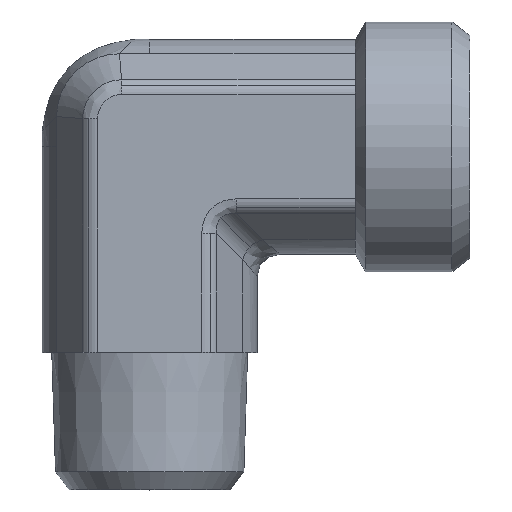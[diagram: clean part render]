
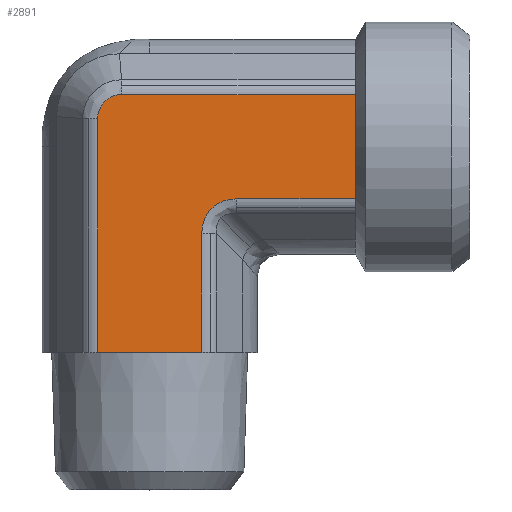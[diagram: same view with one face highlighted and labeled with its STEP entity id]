
A CAD part, top view. The second image highlights one B-rep face of the part: STEP entity #2891.
In plain terms, the highlighted planar face has unit normal (0, 0, 1) as drawn and (0, -1, 0) by its records, which use the part's own axes.
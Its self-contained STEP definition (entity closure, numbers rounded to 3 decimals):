
#361=CARTESIAN_POINT('',(3.092,-9.4,4.561));
#362=VERTEX_POINT('',#361);
#370=CARTESIAN_POINT('',(13.5,-9.4,4.561));
#371=VERTEX_POINT('',#370);
#372=CARTESIAN_POINT('',(3.092,-9.4,4.561));
#373=DIRECTION('',(1.0,0.0,0.0));
#374=VECTOR('',#373,10.408);
#375=LINE('',#372,#374);
#376=EDGE_CURVE('',#362,#371,#375,.T.);
#485=CARTESIAN_POINT('',(-9.061,-9.4,-2.461));
#486=VERTEX_POINT('',#485);
#494=CARTESIAN_POINT('',(-9.061,-9.4,18.0));
#495=VERTEX_POINT('',#494);
#496=CARTESIAN_POINT('',(-9.061,-9.4,-2.461));
#497=DIRECTION('',(0.0,0.0,1.0));
#498=VECTOR('',#497,20.461);
#499=LINE('',#496,#498);
#500=EDGE_CURVE('',#486,#495,#499,.T.);
#1827=CARTESIAN_POINT('',(-4.5,-9.4,18.0));
#1828=VERTEX_POINT('',#1827);
#1963=CARTESIAN_POINT('',(-4.5,-9.4,18.0));
#1964=DIRECTION('',(-1.0,0.0,0.0));
#1965=VECTOR('',#1964,4.561);
#1966=LINE('',#1963,#1965);
#1967=EDGE_CURVE('',#1828,#495,#1966,.T.);
#2040=CARTESIAN_POINT('',(0.061,-9.4,18.0));
#2041=VERTEX_POINT('',#2040);
#2042=CARTESIAN_POINT('',(0.061,-9.4,18.0));
#2043=DIRECTION('',(-1.0,0.0,0.0));
#2044=VECTOR('',#2043,4.561);
#2045=LINE('',#2042,#2044);
#2046=EDGE_CURVE('',#2041,#1828,#2045,.T.);
#2134=CARTESIAN_POINT('',(13.5,-9.4,-4.561));
#2135=VERTEX_POINT('',#2134);
#2136=CARTESIAN_POINT('',(13.5,-9.4,-4.561));
#2137=DIRECTION('',(0.0,0.0,1.0));
#2138=VECTOR('',#2137,9.122);
#2139=LINE('',#2136,#2138);
#2140=EDGE_CURVE('',#2135,#371,#2139,.T.);
#2576=CARTESIAN_POINT('',(-6.961,-9.4,-4.561));
#2577=VERTEX_POINT('',#2576);
#2585=CARTESIAN_POINT('',(-9.061,-9.4,-2.461));
#2586=CARTESIAN_POINT('',(-9.061,-9.4,-2.598));
#2587=CARTESIAN_POINT('',(-9.048,-9.4,-2.736));
#2588=CARTESIAN_POINT('',(-8.977,-9.4,-3.088));
#2589=CARTESIAN_POINT('',(-8.901,-9.4,-3.296));
#2590=CARTESIAN_POINT('',(-8.62,-9.4,-3.796));
#2591=CARTESIAN_POINT('',(-8.37,-9.4,-4.058));
#2592=CARTESIAN_POINT('',(-7.737,-9.4,-4.451));
#2593=CARTESIAN_POINT('',(-7.349,-9.4,-4.561));
#2594=CARTESIAN_POINT('',(-6.961,-9.4,-4.561));
#2595=B_SPLINE_CURVE_WITH_KNOTS('',3,(#2585,#2586,#2587,#2588,#2589,#2590,#2591,#2592,#2593,#2594),.UNSPECIFIED.,.F.,.U.,(4,2,2,2,4),(-3.281,-2.871,-2.215,-1.165,0.0),.UNSPECIFIED.);
#2596=EDGE_CURVE('',#2577,#486,#2595,.F.);
#2623=CARTESIAN_POINT('',(13.5,-9.4,-4.561));
#2624=DIRECTION('',(-1.0,0.0,0.0));
#2625=VECTOR('',#2624,20.461);
#2626=LINE('',#2623,#2625);
#2627=EDGE_CURVE('',#2135,#2577,#2626,.T.);
#2759=CARTESIAN_POINT('',(0.061,-9.4,7.592));
#2760=VERTEX_POINT('',#2759);
#2761=CARTESIAN_POINT('',(0.061,-9.4,18.0));
#2762=DIRECTION('',(0.0,0.0,-1.0));
#2763=VECTOR('',#2762,10.408);
#2764=LINE('',#2761,#2763);
#2765=EDGE_CURVE('',#2041,#2760,#2764,.T.);
#2848=CARTESIAN_POINT('',(4.103,-9.4,8.603));
#2849=DIRECTION('',(0.,-1.0,0.));
#2850=DIRECTION('',(-0.707,0.,-0.707));
#2851=AXIS2_PLACEMENT_3D('',#2848,#2849,#2850);
#2852=ELLIPSE('',#2851,4.518,3.5);
#2853=EDGE_CURVE('',#2760,#362,#2852,.T.);
#2875=CARTESIAN_POINT('',(-4.5,-9.4,-3.175));
#2876=DIRECTION('',(0.0,-1.0,0.0));
#2877=DIRECTION('',(0.0,0.0,-1.0));
#2878=AXIS2_PLACEMENT_3D('',#2875,#2876,#2877);
#2879=PLANE('',#2878);
#2880=ORIENTED_EDGE('',*,*,#2627,.F.);
#2881=ORIENTED_EDGE('',*,*,#2140,.T.);
#2882=ORIENTED_EDGE('',*,*,#376,.F.);
#2883=ORIENTED_EDGE('',*,*,#2853,.F.);
#2884=ORIENTED_EDGE('',*,*,#2765,.F.);
#2885=ORIENTED_EDGE('',*,*,#2046,.T.);
#2886=ORIENTED_EDGE('',*,*,#1967,.T.);
#2887=ORIENTED_EDGE('',*,*,#500,.F.);
#2888=ORIENTED_EDGE('',*,*,#2596,.F.);
#2889=EDGE_LOOP('',(#2880,#2881,#2882,#2883,#2884,#2885,#2886,#2887,#2888));
#2890=FACE_OUTER_BOUND('',#2889,.T.);
#2891=ADVANCED_FACE('',(#2890),#2879,.T.);
